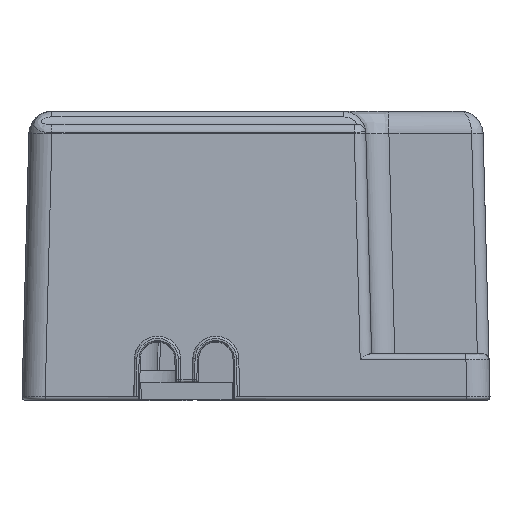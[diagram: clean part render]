
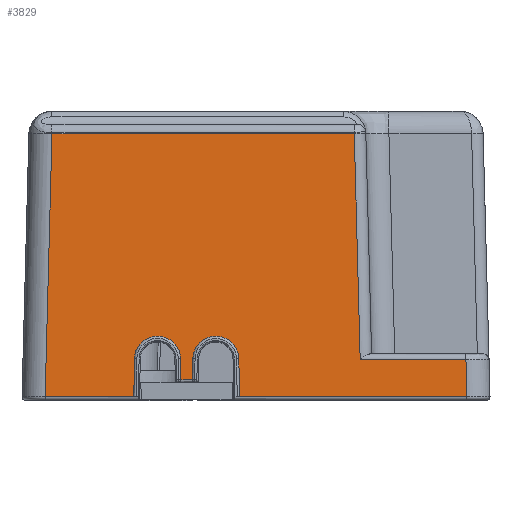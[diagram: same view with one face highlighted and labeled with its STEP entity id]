
A CAD part, front view. The second image highlights one B-rep face of the part: STEP entity #3829.
In plain terms, the highlighted planar face has unit normal (0, -1, 0.026).
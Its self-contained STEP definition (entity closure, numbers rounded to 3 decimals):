
#99=CIRCLE('',#14315,1.996);
#101=CIRCLE('',#14318,1.996);
#3829=ADVANCED_FACE('',(#4818),#4269,.T.);
#4269=PLANE('',#14441);
#4818=FACE_OUTER_BOUND('',#5467,.T.);
#5467=EDGE_LOOP('',(#8185,#8186,#8187,#8188,#8189,#8190,#8191,#8192,#8193,
#8194,#8195,#8196,#8197,#8198));
#8185=ORIENTED_EDGE('',*,*,#11036,.F.);
#8186=ORIENTED_EDGE('',*,*,#11038,.F.);
#8187=ORIENTED_EDGE('',*,*,#11295,.F.);
#8188=ORIENTED_EDGE('',*,*,#11296,.T.);
#8189=ORIENTED_EDGE('',*,*,#11297,.F.);
#8190=ORIENTED_EDGE('',*,*,#11041,.F.);
#8191=ORIENTED_EDGE('',*,*,#11051,.F.);
#8192=ORIENTED_EDGE('',*,*,#11298,.F.);
#8193=ORIENTED_EDGE('',*,*,#11058,.F.);
#8194=ORIENTED_EDGE('',*,*,#11053,.F.);
#8195=ORIENTED_EDGE('',*,*,#11095,.T.);
#8196=ORIENTED_EDGE('',*,*,#11110,.F.);
#8197=ORIENTED_EDGE('',*,*,#11111,.T.);
#8198=ORIENTED_EDGE('',*,*,#11293,.F.);
#9614=VERTEX_POINT('',#20688);
#9617=VERTEX_POINT('',#20693);
#9618=VERTEX_POINT('',#20697);
#9620=VERTEX_POINT('',#20703);
#9622=VERTEX_POINT('',#20706);
#9628=VERTEX_POINT('',#20728);
#9629=VERTEX_POINT('',#20735);
#9631=VERTEX_POINT('',#20738);
#9635=VERTEX_POINT('',#20756);
#9658=VERTEX_POINT('',#20970);
#9668=VERTEX_POINT('',#21088);
#9669=VERTEX_POINT('',#21092);
#9783=VERTEX_POINT('',#22082);
#9784=VERTEX_POINT('',#22084);
#11036=EDGE_CURVE('',#9617,#9614,#12439,.T.);
#11038=EDGE_CURVE('',#9618,#9617,#99,.T.);
#11041=EDGE_CURVE('',#9620,#9622,#101,.T.);
#11051=EDGE_CURVE('',#9628,#9620,#12446,.T.);
#11053=EDGE_CURVE('',#9629,#9631,#12447,.T.);
#11058=EDGE_CURVE('',#9631,#9635,#12450,.T.);
#11095=EDGE_CURVE('',#9629,#9658,#12470,.T.);
#11110=EDGE_CURVE('',#9668,#9658,#12474,.T.);
#11111=EDGE_CURVE('',#9668,#9669,#12475,.T.);
#11293=EDGE_CURVE('',#9614,#9669,#12573,.T.);
#11295=EDGE_CURVE('',#9783,#9618,#12575,.T.);
#11296=EDGE_CURVE('',#9783,#9784,#12576,.T.);
#11297=EDGE_CURVE('',#9622,#9784,#12577,.T.);
#11298=EDGE_CURVE('',#9635,#9628,#12578,.T.);
#12439=LINE('',#20694,#13699);
#12446=LINE('',#20729,#13706);
#12447=LINE('',#20737,#13707);
#12450=LINE('',#20755,#13710);
#12470=LINE('',#20971,#13730);
#12474=LINE('',#21089,#13734);
#12475=LINE('',#21091,#13735);
#12573=LINE('',#22078,#13833);
#12575=LINE('',#22081,#13835);
#12576=LINE('',#22083,#13836);
#12577=LINE('',#22085,#13837);
#12578=LINE('',#22086,#13838);
#13699=VECTOR('',#16204,1.);
#13706=VECTOR('',#16235,1.);
#13707=VECTOR('',#16238,1.);
#13710=VECTOR('',#16243,1.);
#13730=VECTOR('',#16295,1.);
#13734=VECTOR('',#16307,1.);
#13735=VECTOR('',#16310,1.);
#13833=VECTOR('',#16590,1.);
#13835=VECTOR('',#16594,1.);
#13836=VECTOR('',#16595,1.);
#13837=VECTOR('',#16596,1.);
#13838=VECTOR('',#16597,1.);
#14315=AXIS2_PLACEMENT_3D('',#20699,#16208,#16209);
#14318=AXIS2_PLACEMENT_3D('',#20705,#16215,#16216);
#14441=AXIS2_PLACEMENT_3D('',#22087,#16598,#16599);
#16204=DIRECTION('',(-0.017,-0.026,-1.));
#16208=DIRECTION('',(0.,-1.,0.026));
#16209=DIRECTION('',(1.,0.,0.017));
#16215=DIRECTION('',(0.,-1.,0.026));
#16216=DIRECTION('',(1.,0.,0.017));
#16235=DIRECTION('',(-0.017,0.026,1.));
#16238=DIRECTION('',(1.,0.,0.));
#16243=DIRECTION('',(0.026,-0.026,-0.999));
#16295=DIRECTION('',(-0.026,0.026,0.999));
#16307=DIRECTION('',(1.,0.,0.));
#16310=DIRECTION('',(-0.026,-0.026,-0.999));
#16590=DIRECTION('',(-1.,0.,0.));
#16594=DIRECTION('',(-0.017,0.026,1.));
#16595=DIRECTION('',(1.,0.,0.));
#16596=DIRECTION('',(-0.017,-0.026,-1.));
#16597=DIRECTION('',(-1.,0.,0.));
#16598=DIRECTION('',(0.,-1.,0.026));
#16599=DIRECTION('',(-1.,0.,0.));
#20688=CARTESIAN_POINT('',(-10.573,-47.747,0.254));
#20693=CARTESIAN_POINT('',(-10.516,-47.661,3.525));
#20694=CARTESIAN_POINT('',(-10.516,-47.661,3.525));
#20697=CARTESIAN_POINT('',(-6.526,-47.661,3.525));
#20699=CARTESIAN_POINT('',(-8.521,-47.662,3.491));
#20703=CARTESIAN_POINT('',(-1.483,-47.661,3.517));
#20705=CARTESIAN_POINT('',(-3.479,-47.662,3.482));
#20706=CARTESIAN_POINT('',(-5.475,-47.661,3.517));
#20728=CARTESIAN_POINT('',(-1.427,-47.747,0.254));
#20729=CARTESIAN_POINT('',(-1.427,-47.747,0.258));
#20735=CARTESIAN_POINT('',(9.013,-47.663,3.463));
#20737=CARTESIAN_POINT('',(9.013,-47.663,3.463));
#20738=CARTESIAN_POINT('',(18.163,-47.663,3.463));
#20755=CARTESIAN_POINT('',(18.163,-47.663,3.463));
#20756=CARTESIAN_POINT('',(18.247,-47.747,0.258));
#20970=CARTESIAN_POINT('',(8.501,-47.151,23.002));
#20971=CARTESIAN_POINT('',(9.013,-47.663,3.463));
#21088=CARTESIAN_POINT('',(-17.652,-47.151,23.002));
#21089=CARTESIAN_POINT('',(-17.652,-47.151,23.002));
#21091=CARTESIAN_POINT('',(-17.652,-47.151,23.002));
#21092=CARTESIAN_POINT('',(-18.247,-47.747,0.258));
#22078=CARTESIAN_POINT('',(-10.573,-47.747,0.258));
#22081=CARTESIAN_POINT('',(-6.494,-47.709,1.7));
#22082=CARTESIAN_POINT('',(-6.494,-47.709,1.702));
#22083=CARTESIAN_POINT('',(-6.494,-47.709,1.7));
#22084=CARTESIAN_POINT('',(-5.506,-47.709,1.702));
#22085=CARTESIAN_POINT('',(-5.475,-47.661,3.517));
#22086=CARTESIAN_POINT('',(18.247,-47.747,0.258));
#22087=CARTESIAN_POINT('',(-21.947,-47.1,24.95));
